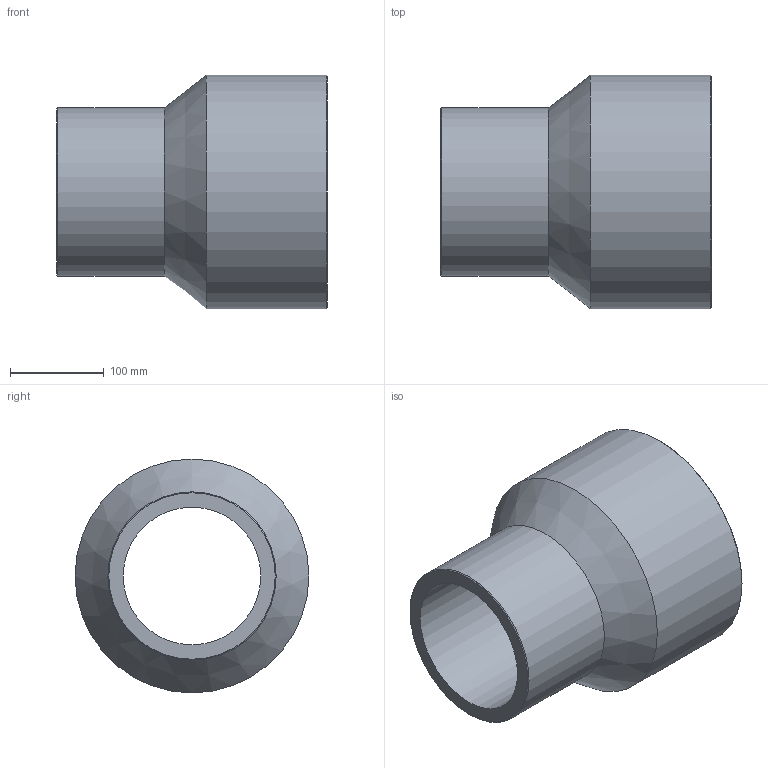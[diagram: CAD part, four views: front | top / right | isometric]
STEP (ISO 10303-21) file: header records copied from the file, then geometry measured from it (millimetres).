
FILE_DESCRIPTION(/* description */ ('Unknown'),/* implementation_level */ '2;1');
FILE_NAME(/* name */ 'RP250180C',/* time_stamp */ '2021-09-17T15:26:53+02:00',/* author */ ('Unknown'),/* organization */ ('Unknown'),/* preprocessor_version */ 'ST-DEVELOPER v16.7',/* originating_system */ 'Solid Edge',/* authorisation */ 'Unknown');
FILE_SCHEMA (('AUTOMOTIVE_DESIGN {1 0 10303 214 3 1 1}'));
Length unit declared in the file: millimetre
Products named in the file (1): RP250180C
Bounding box: 289 x 250 x 250 mm (x, y, z)
Volume: 3760642 mm3; surface area: 393067.1 mm2
Topology: 1 solids, 1 shells, 10 faces, 19 edges, 11 vertices
Faces by surface type: cylinder 4, cone 4, plane 2
Full cylindrical faces by diameter (mm): 147.2 x1, 180 x1, 204.6 x1, 250 x1
Entity records: 238 total; most frequent: DIRECTION 42, CARTESIAN_POINT 31, AXIS2_PLACEMENT_3D 21, ORIENTED_EDGE 20, EDGE_LOOP 20, FACE_BOUND 20, EDGE_CURVE 10, VERTEX_POINT 10
